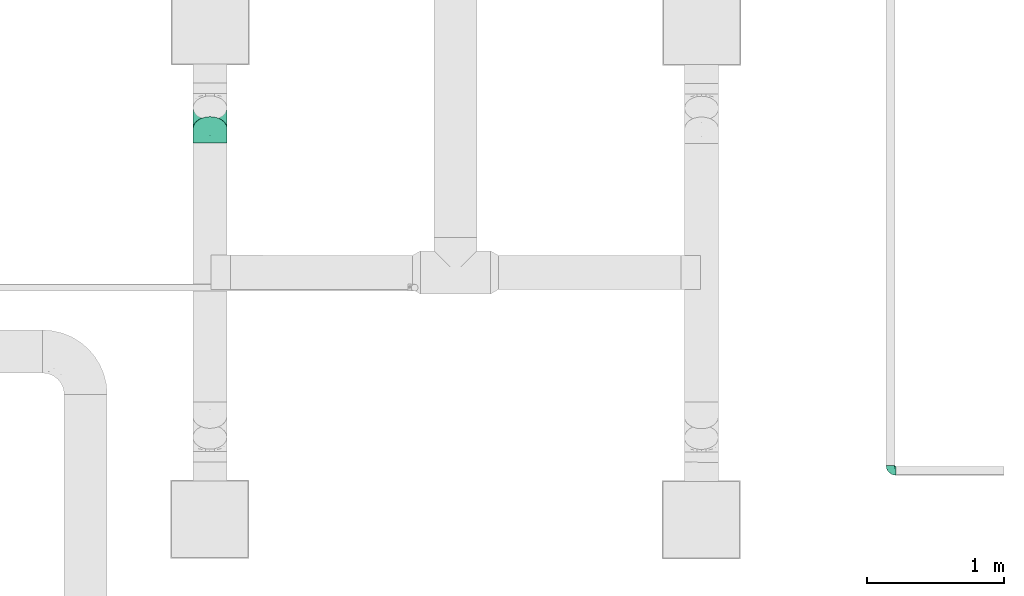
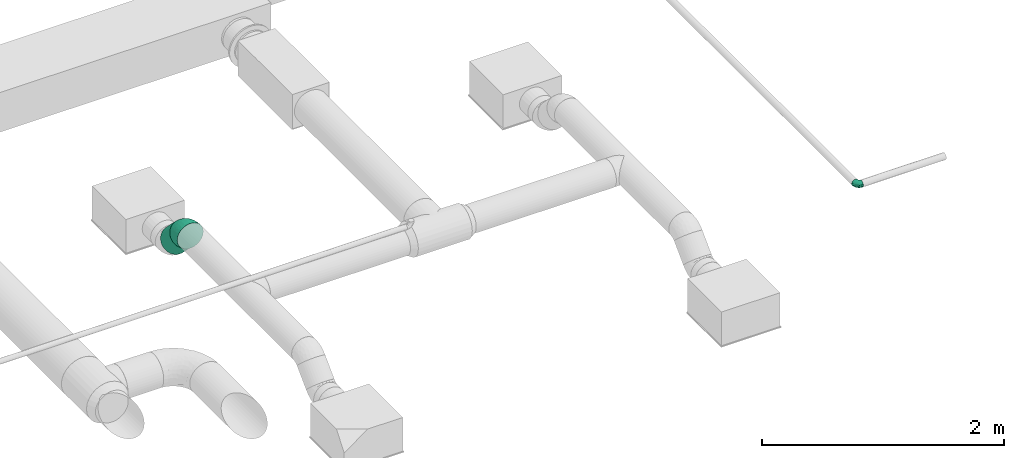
# One storey, part 29 of 63: 2 flow fittings, 1 flow segment.
"""IFC2X3 building model written with IfcOpenShell, lengths in millimetres."""

import ifcopenshell
import ifcopenshell.guid

model = None  # the IFC model being written
_history = None  # IfcOwnerHistory: only IFC2X3 demands one
_inside = {}  # id of a spatial element -> (the spatial element, [elements in it])
_under = {}  # id of a project, library or spatial element -> (it, [spatial elements below it])
_declared = {}  # id of a project -> (the project, [libraries it declares])
_typed = {}  # id of a type object -> (the type object, [elements of that type])
_made_of = {}  # id of a material, layer set ... -> (it, [elements and type objects made of it])


def new_model(schema):
    """Start an empty IFC model of exactly this schema.

    Asked for "IFC4X3", IfcOpenShell would pick the latest addendum, in which some entities
    have other attributes; the version numbers below select the first issue.
    IFC2X3 requires an IfcOwnerHistory on every rooted entity: one is made here for all.
    """
    global model, _history
    if schema == "IFC4X3":
        model = ifcopenshell.file(schema_version=(4, 3, 0, 0))
    else:
        model = ifcopenshell.file(schema=schema)
    _inside.clear()
    _under.clear()
    _declared.clear()
    _typed.clear()
    _made_of.clear()
    _history = None
    if model.schema == "IFC2X3":
        org = make("IfcOrganization", Name="unknown")
        user = make(
            "IfcPersonAndOrganization",
            ThePerson=make("IfcPerson", FamilyName="unknown"),
            TheOrganization=org,
        )
        app = make(
            "IfcApplication",
            ApplicationDeveloper=org,
            Version="unknown",
            ApplicationFullName="unknown",
            ApplicationIdentifier="unknown",
        )
        _history = make(
            "IfcOwnerHistory",
            OwningUser=user,
            OwningApplication=app,
            ChangeAction="ADDED",
            CreationDate=0,
        )
    return model


def make(cls, **values):
    """One entity of the class cls with the attributes given. An attribute that is None is left unset."""
    return model.create_entity(
        cls, **{name: value for name, value in values.items() if value is not None}
    )


def entity(cls, *values):
    """Any entity or typed value of the class cls, its attributes in the order of the schema. None: left unset."""
    e = model.create_entity(cls)
    for i, value in enumerate(values):
        if value is not None:
            e[i] = value
    return e


def rooted(cls, **values):
    """An entity with a GlobalId (a new one), such as an element, a storey or a relation."""
    return make(cls, GlobalId=ifcopenshell.guid.new(), OwnerHistory=_history, **values)


def si_unit(unit_type, name, prefix=None):
    """IfcSIUnit, for example si_unit("LENGTHUNIT", "METRE", prefix="MILLI")."""
    return make("IfcSIUnit", UnitType=unit_type, Prefix=prefix, Name=name)


def converted_unit(unit_type, name, factor, base, dimensions=None, offset=None):
    """IfcConversionBasedUnit, such as the inch: factor (a typed value) times the base unit."""
    return make(
        "IfcConversionBasedUnit"
        if offset is None
        else "IfcConversionBasedUnitWithOffset",
        ConversionOffset=offset,
        Dimensions=None
        if dimensions is None
        else entity("IfcDimensionalExponents", *dimensions),
        UnitType=unit_type,
        Name=name,
        ConversionFactor=make(
            "IfcMeasureWithUnit", ValueComponent=factor, UnitComponent=base
        ),
    )


def derived_unit(unit_type, elements):
    """IfcDerivedUnit: a product of units, each with its exponent."""
    return make(
        "IfcDerivedUnit",
        Elements=[
            make("IfcDerivedUnitElement", Unit=unit, Exponent=power)
            for unit, power in elements
        ],
        UnitType=unit_type,
    )


def assignment(units):
    """IfcUnitAssignment: the units of a project."""
    return None if units is None else make("IfcUnitAssignment", Units=units)


def point(xyz):
    """IfcCartesianPoint."""
    return None if xyz is None else make("IfcCartesianPoint", Coordinates=xyz)


def direction(xyz):
    """IfcDirection."""
    return None if xyz is None else make("IfcDirection", DirectionRatios=xyz)


def frame(location, z_axis=None, x_axis=None):
    """IfcAxis2Placement3D, a coordinate frame: its origin and axes. An axis left out is left unset."""
    return make(
        "IfcAxis2Placement3D",
        Location=point(location),
        Axis=direction(z_axis),
        RefDirection=direction(x_axis),
    )


def frame_2d(location, x_axis=None):
    """IfcAxis2Placement2D, a coordinate frame in the plane: its origin and x axis."""
    return make(
        "IfcAxis2Placement2D", Location=point(location), RefDirection=direction(x_axis)
    )


def origin_with_axes():
    """The frame at (0, 0, 0) with the z axis (0, 0, 1) and the x axis (1, 0, 0) written out."""
    return frame((0.0, 0.0, 0.0), z_axis=(0.0, 0.0, 1.0), x_axis=(1.0, 0.0, 0.0))


def origin_2d_with_axis():
    """The frame at (0, 0) in the plane with the x axis (1, 0) written out."""
    return frame_2d((0.0, 0.0), x_axis=(1.0, 0.0))


def place(relative_to, where):
    """IfcLocalPlacement: puts the frame where relative to a parent placement (None: the world)."""
    return make(
        "IfcLocalPlacement", PlacementRelTo=relative_to, RelativePlacement=where
    )


def context(
    kind, dimensions, precision=None, world=None, true_north=None, identifier=None
):
    """IfcGeometricRepresentationContext, for example the 3D "Model" context."""
    return make(
        "IfcGeometricRepresentationContext",
        ContextIdentifier=identifier,
        ContextType=kind,
        CoordinateSpaceDimension=dimensions,
        Precision=precision,
        WorldCoordinateSystem=world,
        TrueNorth=true_north,
    )


def subcontext(parent, identifier, kind, view, scale=None):
    """IfcGeometricRepresentationSubContext, for example "Body" below "Model"."""
    return make(
        "IfcGeometricRepresentationSubContext",
        ContextIdentifier=identifier,
        ContextType=kind,
        ParentContext=parent,
        TargetScale=scale,
        TargetView=view,
    )


def project(units=None, contexts=None):
    """IfcProject with its units and contexts."""
    return rooted(
        "IfcProject",
        Name="project",
        RepresentationContexts=contexts,
        UnitsInContext=assignment(units),
    )


def spatial(cls, under=None, at=None, **own):
    """A site, building, storey or space (cls), placed at a placement, below another one or the project."""
    s = rooted(cls, ObjectPlacement=at, **own)
    if under is not None:
        _under.setdefault(under.id(), (under, []))[1].append(s)
    return s


def profile(cls, at=None, kind="AREA", **sizes):
    """A parametric profile (cls). Its sizes go by their IFC names, for example OverallWidth=200.0."""
    return make(cls, ProfileType=kind, Position=at, **sizes)


def hollow_circle(**sizes):
    """IfcCircleHollowProfileDef."""
    return profile("IfcCircleHollowProfileDef", **sizes)


def extrude(swept, where, along, depth):
    """IfcExtrudedAreaSolid: the profile swept, set in the frame where, extruded along a direction by depth."""
    return make(
        "IfcExtrudedAreaSolid",
        SweptArea=swept,
        Position=where,
        ExtrudedDirection=direction(along),
        Depth=depth,
    )


def faces_of(points, faces, orient=None, outer=None):
    """IfcFace entities. A face is a list of loops; a loop is a list of indices into points, from 0.

    orient and outer hold one flag for each loop. By default every Orientation is true, the
    first loop of a face is its IfcFaceOuterBound and the others are IfcFaceBound.
    """
    made = []
    for i, loops in enumerate(faces):
        bounds = []
        for j, loop in enumerate(loops):
            is_outer = j == 0 if outer is None else outer[i][j]
            bounds.append(
                make(
                    "IfcFaceOuterBound" if is_outer else "IfcFaceBound",
                    Bound=make("IfcPolyLoop", Polygon=[points[k] for k in loop]),
                    Orientation=True if orient is None else orient[i][j],
                )
            )
        made.append(make("IfcFace", Bounds=bounds))
    return made


def open_shell(faces, orient=None, outer=None):
    """The faces of one IfcOpenShell. surface_model builds it on its shared points."""
    return ("IfcOpenShell", faces, orient, outer)


def surface_model(cls, points, shells):
    """IfcFaceBasedSurfaceModel or IfcShellBasedSurfaceModel (cls): surfaces that need not close."""
    shared = [point(p) for p in points]
    made = [make(c, CfsFaces=faces_of(shared, fs, o, b)) for c, fs, o, b in shells]
    if cls == "IfcFaceBasedSurfaceModel":
        return make(cls, FbsmFaces=made)
    return make(cls, SbsmBoundary=made)


def shape(context_of_items, identifier, shape_type, items):
    """IfcShapeRepresentation: the items that make up one representation, for example the "Body"."""
    return make(
        "IfcShapeRepresentation",
        ContextOfItems=context_of_items,
        RepresentationIdentifier=identifier,
        RepresentationType=shape_type,
        Items=items,
    )


def source(mapping_origin, context_of_items, identifier, shape_type, items):
    """IfcRepresentationMap: a shape defined once, which mapped items show again and again."""
    return make(
        "IfcRepresentationMap",
        MappingOrigin=mapping_origin,
        MappedRepresentation=shape(context_of_items, identifier, shape_type, items),
    )


def transform(
    local_origin,
    x_axis=None,
    y_axis=None,
    z_axis=None,
    scale=None,
    scale2=None,
    scale3=None,
    uniform=True,
):
    """IfcCartesianTransformationOperator3D, or its non-uniform kind. x_axis, y_axis, z_axis: its Axis1, 2, 3."""
    if uniform:
        return make(
            "IfcCartesianTransformationOperator3D",
            Axis1=direction(x_axis),
            Axis2=direction(y_axis),
            LocalOrigin=point(local_origin),
            Scale=scale,
            Axis3=direction(z_axis),
        )
    return make(
        "IfcCartesianTransformationOperator3DnonUniform",
        Axis1=direction(x_axis),
        Axis2=direction(y_axis),
        LocalOrigin=point(local_origin),
        Scale=scale,
        Axis3=direction(z_axis),
        Scale2=scale2,
        Scale3=scale3,
    )


def mapped(mapping_source, mapping_target):
    """IfcMappedItem: shows the shape of a source again, moved by a transform."""
    return make(
        "IfcMappedItem", MappingSource=mapping_source, MappingTarget=mapping_target
    )


def made_of(thing, what):
    """Note that an element or type object is made of a material, layer set ...; save() writes the relation."""
    if what is not None:
        _made_of.setdefault(what.id(), (what, []))[1].append(thing)
    return thing


def type_object(cls, material=None, **own):
    """A type object (cls), such as IfcWallType, which elements share."""
    return made_of(rooted(cls, **own), material)


def element(
    cls,
    number,
    at=None,
    inside=None,
    cuts=None,
    type_object=None,
    material=None,
    context=None,
    identifier="Body",
    shape_type=None,
    held_by="IfcProductDefinitionShape",
    body=None,
    shapes=None,
    **own,
):
    """One element of the class cls, such as IfcWall. Its Tag is "e" and its number.

    at: its placement. inside: the storey or other place that contains it. cuts: it is an
    opening in that element (IfcRelVoidsElement). A single representation is given by context,
    identifier, shape_type and body (its items); several are given by shapes. held_by: the class
    of the entity that holds the representations. save() writes the other relations.
    """
    e = rooted(cls, Tag="e%d" % number, ObjectPlacement=at, **own)
    if body is not None:
        shapes = [shape(context, identifier, shape_type, body)]
    if shapes is not None:
        e.Representation = make(held_by, Representations=shapes)
    if inside is not None:
        _inside.setdefault(inside.id(), (inside, []))[1].append(e)
    if cuts is not None:
        rooted(
            "IfcRelVoidsElement", RelatingBuildingElement=cuts, RelatedOpeningElement=e
        )
    if type_object is not None:
        _typed.setdefault(type_object.id(), (type_object, []))[1].append(e)
    return made_of(e, material)


def aggregate(whole, parts):
    """IfcRelAggregates: a whole, such as a stair, and the parts it consists of."""
    return rooted("IfcRelAggregates", RelatingObject=whole, RelatedObjects=parts)


def save(model, path):
    """Write the relations noted so far, then the file.

    IfcRelAggregates (storeys below a building ...), IfcRelContainedInSpatialStructure (elements
    in a storey), IfcRelDefinesByType, IfcRelAssociatesMaterial and IfcRelDeclares: one each for
    every whole, place, type object, material and project.
    """
    for whole, parts in _under.values():
        aggregate(whole, parts)
    for where, things in _inside.values():
        rooted(
            "IfcRelContainedInSpatialStructure",
            RelatedElements=things,
            RelatingStructure=where,
        )
    for kind, things in _typed.values():
        rooted("IfcRelDefinesByType", RelatedObjects=things, RelatingType=kind)
    for what, things in _made_of.values():
        rooted("IfcRelAssociatesMaterial", RelatedObjects=things, RelatingMaterial=what)
    for by, libraries in _declared.values():
        rooted("IfcRelDeclares", RelatingContext=by, RelatedDefinitions=libraries)
    model.write(path)


model = new_model("IFC2X3")

# Units and contexts
model_context = context("Model", 3, precision=0.01, world=frame((0.0, 4.29681676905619e-09, 0.0)), true_north=direction((4.01073788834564e-13, 1.0)))
plan_context = context("Plan", 3, precision=0.01, world=frame((0.0, 4.29681676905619e-09, 0.0)), true_north=direction((4.01073788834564e-13, 1.0)))
body_context = subcontext(model_context, "Body", "Model", "MODEL_VIEW")
ifc_project = project(units=[converted_unit("PLANEANGLEUNIT", "DEGREE", entity("IfcPositiveLengthMeasure", 0.0174532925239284), si_unit("PLANEANGLEUNIT", "RADIAN"), dimensions=[0, 0, 0, 0, 0, 0, 0]), si_unit("AREAUNIT", "SQUARE_METRE"), si_unit("LENGTHUNIT", "METRE", prefix="MILLI"), si_unit("MASSUNIT", "GRAM", prefix="KILO"), si_unit("POWERUNIT", "WATT"), si_unit("PRESSUREUNIT", "PASCAL"), si_unit("FORCEUNIT", "NEWTON", prefix="KILO"), si_unit("ELECTRICVOLTAGEUNIT", "VOLT"), si_unit("ELECTRICCURRENTUNIT", "AMPERE"), si_unit("THERMODYNAMICTEMPERATUREUNIT", "DEGREE_CELSIUS"), si_unit("TIMEUNIT", "SECOND"), si_unit("VOLUMEUNIT", "CUBIC_METRE"), derived_unit("LINEARVELOCITYUNIT", [(si_unit("LENGTHUNIT", "METRE"), 1), (si_unit("TIMEUNIT", "SECOND"), -1)]), derived_unit("VOLUMETRICFLOWRATEUNIT", [(si_unit("VOLUMEUNIT", "CUBIC_METRE"), 1), (si_unit("TIMEUNIT", "SECOND"), -1)]), derived_unit("THERMALTRANSMITTANCEUNIT", [(si_unit("POWERUNIT", "WATT"), 1), (si_unit("THERMODYNAMICTEMPERATUREUNIT", "KELVIN"), -1), (si_unit("AREAUNIT", "SQUARE_METRE"), -1)]), derived_unit("SOUNDPRESSUREUNIT", [(si_unit("PRESSUREUNIT", "PASCAL"), 1)])], contexts=[model_context, plan_context])

# Site, building, storey
site_placement = place(None, frame((0.0, -4.29681676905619e-09, 0.0), z_axis=(0.0, 0.0, 1.0), x_axis=(1.0, 0.0, 0.0)))
site = spatial("IfcSite", under=ifc_project, at=site_placement, CompositionType="ELEMENT")
building_placement = place(site_placement, frame((0.0, 4.29681676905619e-09, 0.0), z_axis=(0.0, 0.0, 1.0), x_axis=(1.0, 0.0, 0.0)))
building = spatial("IfcBuilding", under=site, at=building_placement, Name="mc-building", CompositionType="ELEMENT")
storey_placement = place(building_placement, frame((0.0, 0.0, 210900.0), z_axis=(0.0, 0.0, 1.0), x_axis=(1.0, 0.0, 0.0)))
storey = spatial("IfcBuildingStorey", under=building, at=storey_placement, Name="Nivå F", CompositionType="ELEMENT", Elevation=210900.0)

# Flow fittings
duct_fitting_type = type_object("IfcDuctFittingType", Name="magicirc_elbow_short_001", PredefinedType="BEND")
shared_shape_1 = source(origin_with_axes(), body_context, "Body", "SurfaceModel", [
    surface_model("IfcShellBasedSurfaceModel", [(-62.13204, 0.0, -125.0), (-62.13204, -32.35238, -120.74073), (-62.13204, 32.35238, -120.74073), (-62.13204, 62.5, -108.25318), (-62.13204, 88.38835, -88.38835), (-62.13204, 108.25318, -62.5), (-62.13204, 120.74073, -32.35238), (-62.13204, -62.5, -108.25318), (-62.13204, -88.38835, -88.38835), (-62.13204, -125.0, 0.0), (-62.13204, -108.25318, -62.5), (-62.13204, -120.74073, -32.35238), (-62.13204, 125.0, 0.0), (-62.13204, -120.74073, 32.35238), (-62.13204, 120.74073, 32.35238), (-62.13204, 108.25318, 62.5), (-62.13204, 32.35238, 120.74073), (-62.13204, 62.5, 108.25318), (-62.13204, 88.38835, 88.38835), (-62.13204, -88.38835, 88.38835), (-62.13204, -108.25318, 62.5), (-62.13204, -32.35238, 120.74073), (-62.13204, 0.0, 125.0), (-62.13204, -62.5, 108.25318), (-32.61257, 120.48054, -62.5), (-41.44261, 129.31057, -32.35238), (-44.45436, 132.32233, 0.0), (-41.44261, 129.31057, 32.35238), (-32.61257, 120.48054, 62.5), (-39.32094, -100.77129, 72.52866), (-25.3983, -115.58366, 40.92131), (-9.38975, -99.61313, 67.6303), (-40.71594, 99.20513, 81.38635), (-18.56602, 106.43398, 88.38835), (6.93461, -16.74165, 121.22697), (-29.92798, -19.88945, 122.8817), (-17.69423, -50.99343, 111.83063), (-28.63512, 12.8945, 124.68547), (-43.55871, 45.16564, 117.17454), (-19.1971, 46.34588, 119.14586), (20.11216, -107.05726, 35.36285), (37.22525, -89.79474, 60.1728), (-42.64489, 65.81413, 107.6176), (18.18237, -43.89615, 109.72868), (-48.14682, 116.23669, 52.46898), (11.13029, 29.36587, 124.68547), (-8.4822, -119.71595, 0.0), (17.31186, -111.89141, 0.0), (-27.44697, 77.92943, 103.54984), (-1.13628, 62.73759, 117.17454), (-0.26019, 88.12816, 108.25318), (29.58221, -71.41779, 87.09722), (2.27359, -83.55864, 84.32151), (46.20365, -49.09439, 98.73245), (43.10591, -104.06687, 0.0), (-28.63512, 12.89449, -124.68547), (-29.92797, -19.88945, -122.8817), (11.13029, 29.36586, -124.68547), (-19.1971, 46.34588, -119.14586), (-43.55871, 45.16564, -117.17454), (-35.69649, 74.51237, -103.54983), (-25.3983, -115.58366, -40.92131), (-48.14682, 116.23669, -52.46898), (-39.32094, -100.77129, -72.52866), (-16.38313, 76.69211, -107.6176), (-18.56602, 106.43398, -88.38835), (-0.26019, 88.12816, -108.25318), (-17.69423, -50.99343, -111.83063), (6.93461, -16.74165, -121.22697), (-1.13628, 62.73759, -117.17454), (48.5695, -23.54609, -111.83063), (35.22623, 7.0983, -122.8817), (-9.38975, -99.61313, -67.63031), (2.04406, -67.38589, -98.73245), (29.58221, -71.41778, -87.09723), (43.93399, 43.934, -125.0), (106.43399, -18.56599, 88.38835), (132.32235, -44.45434, 0.0), (21.05739, 66.81058, -120.74073), (88.12817, -0.26017, 108.25318), (66.81057, 21.05741, -120.74073), (106.43399, -18.56599, -88.38835), (88.12817, -0.26017, -108.25318), (129.31058, -41.44258, -32.35238), (120.48055, -32.61255, -62.5), (21.05739, 66.81058, 120.74073), (43.93399, 43.934, 125.0), (129.31058, -41.44258, 32.35238), (120.48055, -32.61255, 62.5), (66.81057, 21.05741, 120.74073), (-31.08246, -121.94188, 0.0), (35.22622, 7.09831, 122.8817), (77.07669, -63.79755, 67.6303), (61.9235, -89.5906, 35.66991), (-52.56496, 126.90301, 0.0), (99.68931, -63.77067, 40.92131), (48.5695, -23.54609, 111.83062), (99.06018, -43.45194, 72.52866), (74.0201, -37.27574, 94.74512), (108.20455, -64.2473, 0.0), (90.64979, -78.65413, 0.0), (66.87785, -91.36049, 0.0), (-3.43913, -67.17105, 100.02812), (19.56361, -107.13664, -35.66991), (-41.35812, 98.93914, -81.38635), (-25.98217, -78.69805, -94.74512), (61.47949, -89.92235, -35.36285), (18.18239, -43.89616, -109.72867), (57.47721, -60.69254, -84.32152), (74.02009, -37.27574, -94.74513), (77.07669, -63.79755, -67.6303), (37.17223, -89.81669, -60.17279), (99.68931, -63.77066, -40.92131), (99.06018, -43.45194, -72.52866), (49.92893, -45.06527, -100.02812), (-25.98217, -78.69805, 94.74512)], [open_shell([[[0, 1, 2]], [[3, 2, 4]], [[1, 5, 2]], [[4, 2, 5]], [[5, 1, 6]], [[7, 8, 1]], [[9, 1, 8]], [[10, 11, 8]], [[9, 8, 11]], [[9, 6, 1]], [[9, 12, 6]], [[12, 13, 14]], [[15, 14, 16]], [[16, 17, 18]], [[15, 16, 18]], [[16, 14, 19]], [[20, 19, 13]], [[19, 14, 13]], [[21, 22, 23]], [[19, 23, 22]], [[19, 22, 16]], [[9, 13, 12]], [[24, 25, 26]], [[26, 27, 28]], [[29, 30, 31]], [[32, 33, 28]], [[30, 20, 13]], [[34, 35, 36]], [[21, 35, 22]], [[21, 23, 36]], [[16, 22, 37]], [[38, 37, 39]], [[31, 40, 41]], [[42, 17, 38]], [[38, 17, 16]], [[43, 34, 36]], [[35, 37, 22]], [[14, 15, 44]], [[42, 32, 18]], [[29, 19, 20]], [[40, 31, 30]], [[37, 45, 39]], [[45, 37, 34]], [[40, 46, 47]], [[42, 18, 17]], [[33, 32, 48]], [[27, 44, 28]], [[48, 39, 49]], [[33, 48, 50]], [[44, 32, 28]], [[18, 32, 15]], [[36, 35, 21]], [[37, 35, 34]], [[41, 51, 52]], [[14, 44, 27]], [[32, 44, 15]], [[37, 38, 16]], [[42, 39, 48]], [[39, 42, 38]], [[42, 48, 32]], [[48, 49, 50]], [[45, 49, 39]], [[30, 29, 20]], [[53, 43, 51]], [[46, 40, 30]], [[47, 54, 40]], [[41, 52, 31]], [[0, 2, 55]], [[56, 1, 0]], [[57, 55, 58]], [[59, 60, 58]], [[10, 61, 11]], [[3, 4, 60]], [[62, 6, 25]], [[61, 10, 63]], [[64, 65, 66]], [[1, 56, 67]], [[8, 63, 10]], [[7, 1, 67]], [[56, 55, 68]], [[25, 24, 62]], [[69, 64, 66]], [[2, 3, 59]], [[59, 55, 2]], [[69, 57, 58]], [[70, 68, 71]], [[55, 57, 68]], [[55, 56, 0]], [[67, 56, 68]], [[57, 71, 68]], [[6, 62, 5]], [[60, 59, 3]], [[55, 59, 58]], [[64, 58, 60]], [[58, 64, 69]], [[61, 63, 72]], [[72, 73, 74]], [[75, 76, 77]], [[66, 26, 78]], [[78, 79, 75]], [[24, 66, 65]], [[66, 24, 26]], [[80, 81, 82]], [[80, 75, 81]], [[81, 83, 84]], [[83, 81, 77]], [[75, 77, 81]], [[26, 28, 50]], [[50, 85, 26]], [[50, 28, 33]], [[26, 85, 86]], [[87, 76, 88]], [[77, 76, 87]], [[79, 86, 89]], [[76, 75, 79]], [[86, 79, 26]], [[78, 26, 79]], [[90, 46, 30]], [[91, 45, 34]], [[92, 41, 93]], [[94, 14, 27]], [[40, 93, 41]], [[94, 12, 14]], [[92, 93, 95]], [[40, 54, 93]], [[96, 89, 91]], [[97, 88, 76]], [[89, 96, 79]], [[88, 97, 95]], [[88, 95, 87]], [[96, 98, 79]], [[53, 92, 98]], [[95, 99, 87]], [[85, 50, 49]], [[41, 92, 51]], [[30, 13, 90]], [[26, 94, 27]], [[93, 100, 95]], [[93, 54, 101]], [[86, 91, 89]], [[86, 85, 45]], [[45, 85, 49]], [[34, 43, 96]], [[79, 98, 76]], [[93, 101, 100]], [[53, 98, 96]], [[97, 98, 92]], [[45, 91, 86]], [[96, 91, 34]], [[13, 9, 90]], [[99, 95, 100]], [[99, 77, 87]], [[98, 97, 76]], [[95, 97, 92]], [[51, 43, 102]], [[51, 102, 52]], [[43, 36, 102]], [[43, 53, 96]], [[92, 53, 51]], [[103, 46, 61]], [[78, 75, 57]], [[4, 104, 60]], [[73, 72, 105]], [[80, 82, 70]], [[61, 90, 11]], [[83, 77, 99]], [[105, 7, 67]], [[106, 100, 101]], [[103, 54, 47]], [[72, 103, 61]], [[105, 8, 7]], [[68, 107, 67]], [[6, 12, 94]], [[108, 109, 110]], [[94, 26, 25]], [[111, 72, 74]], [[112, 83, 99]], [[82, 81, 109]], [[112, 84, 83]], [[64, 104, 65]], [[4, 5, 104]], [[113, 81, 84]], [[109, 108, 114]], [[70, 82, 109]], [[66, 78, 69]], [[75, 80, 71]], [[110, 113, 112]], [[107, 68, 70]], [[112, 99, 100]], [[106, 103, 111]], [[106, 110, 112]], [[110, 106, 111]], [[71, 57, 75]], [[103, 47, 46]], [[94, 25, 6]], [[113, 109, 81]], [[106, 54, 103]], [[73, 105, 67]], [[63, 105, 72]], [[62, 104, 5]], [[65, 104, 24]], [[70, 71, 80]], [[90, 61, 46]], [[90, 9, 11]], [[72, 111, 103]], [[111, 74, 108]], [[104, 62, 24]], [[57, 69, 78]], [[64, 60, 104]], [[112, 113, 84]], [[109, 113, 110]], [[105, 63, 8]], [[114, 70, 109]], [[73, 107, 74]], [[100, 106, 112]], [[101, 54, 106]], [[111, 108, 110]], [[74, 107, 114]], [[74, 114, 108]], [[107, 70, 114]], [[107, 73, 67]], [[23, 115, 36]], [[52, 102, 115]], [[23, 19, 115]], [[29, 115, 19]], [[52, 115, 31]], [[115, 29, 31]], [[102, 36, 115]]])]),
])
flow_fitting_1_placement = place(storey_placement, frame((530505.40078, 453602.55454, 4200.0), z_axis=(0.999999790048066, -0.000647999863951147, -3.79470760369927e-19), x_axis=(-0.000458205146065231, -0.707106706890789, 0.707106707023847)))
element("IfcFlowFitting", 1, at=flow_fitting_1_placement, inside=storey, type_object=duct_fitting_type, Name="magicirc_elbow_short_001", context=body_context, shape_type="MappedRepresentation", body=[
    mapped(shared_shape_1, transform((0.0, 0.0, 0.0), scale=1.0)),
])
shared_shape_2 = source(origin_with_axes(), body_context, "Body", "SurfaceModel", [
    surface_model("IfcShellBasedSurfaceModel", [(-39.0, 16.25, -28.14582), (-39.0, 8.41162, -31.39259), (-39.0, 0.0, -32.5), (-39.0, 28.14582, -16.25), (-39.0, 31.39259, -8.41162), (-39.0, 22.98097, -22.98097), (-39.0, -31.39259, -8.41162), (-39.0, -22.98097, -22.98097), (-39.0, -16.25, -28.14582), (-39.0, -8.41162, -31.39259), (-39.0, -28.14582, -16.25), (-39.0, -32.5, 0.0), (-39.0, -31.39259, 8.41162), (-39.0, 16.25, 28.14582), (-39.0, 31.39259, 8.41162), (-39.0, 28.14582, 16.25), (-39.0, 22.98097, 22.98097), (-39.0, -22.98097, 22.98097), (-39.0, 8.41162, 31.39259), (-39.0, -28.14582, 16.25), (-39.0, -8.41162, 31.39259), (-39.0, 0.0, 32.5), (-39.0, -16.25, 28.14582), (-39.0, 32.5, 0.0), (0.0, 39.0, -32.5), (-8.41162, 39.0, -31.39259), (-16.25, 39.0, -28.14582), (-28.14582, 39.0, -16.25), (-31.39259, 39.0, -8.41162), (-22.98097, 39.0, -22.98097), (31.39259, 39.0, -8.41162), (16.25, 39.0, -28.14582), (22.98097, 39.0, -22.98097), (8.41162, 39.0, -31.39259), (28.14582, 39.0, -16.25), (31.39259, 39.0, 8.41162), (32.5, 39.0, 0.0), (-16.25, 39.0, 28.14582), (-31.39259, 39.0, 8.41162), (-22.98097, 39.0, 22.98097), (-28.14582, 39.0, 16.25), (22.98097, 39.0, 22.98097), (-8.41162, 39.0, 31.39259), (28.14582, 39.0, 16.25), (16.25, 39.0, 28.14582), (0.0, 39.0, 32.5), (8.41162, 39.0, 31.39259), (-32.5, 39.0, 0.0), (11.76834, 12.131, 26.76213), (17.76928, 18.80209, 24.58577), (14.03034, 25.58403, 28.4557), (-27.39207, -30.14132, 9.40651), (-16.92918, -27.775, 8.64922), (-22.39985, -26.18081, 16.04807), (-32.4644, 9.10615, 31.39569), (-30.51954, 18.82994, 27.62549), (15.43295, -5.75907, 0.0), (13.75377, -8.57062, 5.47997), (11.55813, -11.55813, 0.0), (-12.131, -11.76835, 26.76213), (-19.40187, -5.53363, 31.03267), (-25.58403, -14.03034, 28.4557), (-27.27224, -21.02467, 23.77394), (-18.80209, -17.76928, 24.58577), (-31.88666, -26.50709, 18.24996), (-30.16778, -5.83561, 31.80246), (-11.04568, 28.02334, 31.23824), (-2.56194, 28.69837, 32.48022), (21.02468, 27.27224, 23.77394), (22.33368, 18.79773, 20.05395), (26.18081, 22.39985, 16.04807), (7.96389, -4.30748, 20.90561), (-1.78002, -11.49647, 22.20526), (-0.5074, -15.22672, 17.3209), (-26.22831, 11.18008, 31.39878), (-28.29822, 2.55195, 32.4842), (-16.96398, 6.14377, 32.49515), (-39.0, 12.33081, 29.76921), (-31.08223, -30.92506, 0.0), (-18.81028, 30.83549, 27.56184), (-27.05605, 27.05605, 23.82131), (-21.31898, 21.55691, 29.25169), (-33.74024, 33.74024, 7.75348), (-34.4038, 34.4038, 0.0), (-6.66284, 20.84558, 32.44351), (-33.48254, 25.2926, 21.66693), (-34.20254, 28.80556, 16.94471), (30.14132, 27.39207, 9.40651), (30.92506, 31.08223, 0.0), (-9.81809, -21.93366, 15.50861), (-7.84714, -23.61287, 9.96443), (-2.62833, -19.50659, 12.75931), (5.83561, 30.16778, 31.80246), (-5.03489, 10.31945, 32.03901), (-10.41291, 0.51353, 31.24567), (29.35011, 23.16445, 0.0), (27.67026, 16.32938, 8.3112), (27.05739, 11.63813, 0.0), (-23.16445, -29.35011, 0.0), (26.50709, 31.88666, 18.24996), (-31.07233, 32.06878, 15.67587), (5.53363, 19.40187, 31.03267), (-25.2926, 33.48254, 21.66693), (-5.83907, -23.18257, 0.0), (0.75535, -19.50821, 7.00173), (-13.70334, 16.25871, 32.11557), (18.74181, 10.66169, 20.37406), (-19.15604, 11.81156, 32.05829), (-11.63813, -27.05739, 0.0), (-0.39882, 20.84724, 32.29366), (-17.59128, -22.63305, 19.1684), (-0.79288, 0.79288, 28.8142), (2.58034, 9.78762, 30.27585), (16.69212, -2.73243, 10.96853), (12.75699, -3.83851, 16.18066), (10.93722, -9.3747, 11.15462), (18.97429, 4.16902, 15.37545), (23.93292, 6.30619, 6.12024), (6.45891, 4.86455, 27.16034), (14.08886, 2.56989, 20.29265), (3.3809, -2.63971, 25.28882), (-7.69024, -5.28324, 28.70855), (-10.66169, -18.74181, 20.37407), (23.52715, 11.19447, 13.7866), (19.30776, 0.04, 0.0), (23.18257, 5.83907, 0.0), (4.20237, -14.97813, 12.16315), (8.00223, -14.1489, 5.94951), (5.75907, -15.43295, 0.0), (-0.04, -19.30776, 0.0), (-9.10615, 32.4644, -31.39569), (-11.18008, 26.2283, -31.39878), (-18.82994, 30.51954, -27.62549), (-31.88666, -26.50709, -18.24996), (-28.02334, 11.04568, -31.23824), (-28.69837, 2.56194, -32.48022), (-32.06878, 31.07233, -15.67587), (-27.05605, 27.05605, -23.82131), (-33.48254, 25.2926, -21.66693), (19.50821, -0.75535, -7.00173), (23.61287, 7.84714, -9.96443), (-16.32938, -27.67026, -8.3112), (-12.131, -11.76835, -26.76213), (-10.66169, -18.74181, -20.37407), (-18.80209, -17.76928, -24.58577), (-10.31945, 5.03489, -32.03901), (-6.14378, 16.96398, -32.49515), (-0.51353, 10.4129, -31.24567), (-16.25871, 13.70333, -32.11557), (-27.39207, -30.14132, -9.40651), (-2.55195, 28.29821, -32.4842), (-27.27224, -21.02467, -23.77394), (-18.79773, -22.33368, -20.05395), (-22.39985, -26.18081, -16.04807), (-25.58403, -14.03034, -28.4557), (-30.83549, 18.81028, -27.56184), (-21.55691, 21.31898, -29.25169), (-30.16778, -5.83561, -31.80246), (21.93365, 9.81809, -15.50861), (27.775, 16.92918, -8.64922), (30.14132, 27.39207, -9.40651), (-33.74024, 33.74024, -7.75348), (-28.80556, 34.20254, -16.94471), (-19.40187, -5.53363, -31.03267), (-25.2926, 33.48254, -21.66694), (4.30748, -7.96389, -20.90561), (11.49647, 1.78002, -22.20526), (15.22671, 0.5074, -17.3209), (-12.33081, 39.0, -29.76921), (14.03034, 25.58403, -28.4557), (5.53363, 19.40187, -31.03267), (5.83561, 30.16778, -31.80246), (21.02467, 27.27224, -23.77394), (26.50709, 31.88666, -18.24996), (11.76834, 12.131, -26.76213), (19.50659, 2.62832, -12.75931), (26.18081, 22.39985, -16.04807), (-20.84558, 6.66283, -32.44351), (17.76928, 18.80209, -24.58577), (8.57062, -13.75377, -5.47997), (-11.81157, 19.15604, -32.05829), (-20.84724, 0.39882, -32.29366), (22.63305, 17.59128, -19.1684), (-0.79288, 0.79288, -28.8142), (-9.78762, -2.58035, -30.27585), (2.73243, -16.69212, -10.96853), (3.83851, -12.757, -16.18066), (9.3747, -10.93722, -11.15462), (-4.16902, -18.97429, -15.37545), (-6.30619, -23.93292, -6.12024), (-4.86455, -6.45891, -27.16034), (-2.56989, -14.08887, -20.29265), (2.63971, -3.3809, -25.28882), (5.28323, 7.69024, -28.70855), (18.74181, 10.66169, -20.37407), (-11.19448, -23.52715, -13.78661), (14.97813, -4.20237, -12.16315), (14.1489, -8.00223, -5.94952)], [open_shell([[[0, 1, 2]], [[3, 0, 2]], [[2, 4, 3]], [[5, 0, 3]], [[6, 4, 2]], [[7, 6, 8]], [[2, 9, 8]], [[10, 6, 7]], [[6, 2, 8]], [[6, 11, 12]], [[13, 4, 6]], [[13, 14, 4]], [[15, 14, 16]], [[13, 6, 17]], [[16, 14, 13]], [[13, 17, 18]], [[19, 17, 12]], [[12, 17, 6]], [[20, 21, 22]], [[17, 22, 21]], [[17, 21, 18]], [[23, 4, 14]], [[24, 25, 26]], [[24, 26, 27]], [[27, 28, 24]], [[27, 26, 29]], [[24, 28, 30]], [[31, 30, 32]], [[31, 33, 24]], [[32, 30, 34]], [[24, 30, 31]], [[30, 35, 36]], [[30, 28, 37]], [[28, 38, 37]], [[39, 38, 40]], [[41, 30, 37]], [[37, 38, 39]], [[42, 41, 37]], [[35, 41, 43]], [[30, 41, 35]], [[44, 45, 46]], [[45, 44, 41]], [[42, 45, 41]], [[38, 28, 47]], [[48, 49, 50]], [[51, 52, 53]], [[54, 55, 13]], [[56, 57, 58]], [[59, 60, 61]], [[61, 62, 63]], [[64, 17, 19]], [[62, 61, 22]], [[65, 21, 20]], [[42, 66, 67]], [[68, 69, 70]], [[61, 60, 65]], [[71, 72, 73]], [[74, 75, 76]], [[20, 22, 61]], [[13, 55, 16]], [[13, 77, 54]], [[51, 12, 78]], [[79, 80, 81]], [[23, 82, 83]], [[84, 67, 66]], [[23, 14, 82]], [[85, 86, 15]], [[87, 88, 35]], [[15, 16, 85]], [[37, 79, 66]], [[89, 90, 91]], [[22, 17, 62]], [[44, 68, 41]], [[18, 21, 75]], [[50, 46, 92]], [[44, 46, 50]], [[93, 76, 94]], [[95, 87, 96]], [[97, 95, 96]], [[50, 68, 44]], [[77, 18, 54]], [[35, 43, 87]], [[98, 51, 78]], [[41, 99, 43]], [[37, 39, 79]], [[38, 100, 40]], [[48, 50, 101]], [[100, 80, 102]], [[51, 19, 12]], [[83, 82, 47]], [[103, 104, 90]], [[37, 66, 42]], [[66, 79, 81]], [[105, 76, 93]], [[48, 106, 49]], [[39, 40, 102]], [[42, 67, 45]], [[89, 52, 90]], [[82, 100, 38]], [[92, 46, 45]], [[86, 14, 15]], [[61, 63, 59]], [[65, 75, 21]], [[107, 76, 105]], [[74, 107, 81]], [[85, 55, 80]], [[52, 98, 108]], [[64, 51, 53]], [[99, 87, 43]], [[87, 70, 96]], [[102, 79, 39]], [[80, 55, 81]], [[84, 66, 105]], [[67, 109, 92]], [[49, 68, 50]], [[99, 68, 70]], [[64, 62, 17]], [[110, 53, 89]], [[75, 60, 76]], [[94, 76, 60]], [[111, 112, 93]], [[84, 109, 67]], [[113, 114, 115]], [[57, 113, 115]], [[116, 114, 113]], [[80, 86, 85]], [[90, 104, 91]], [[97, 96, 117]], [[118, 119, 48]], [[116, 119, 114]], [[72, 120, 121]], [[112, 48, 101]], [[48, 112, 118]], [[72, 59, 122]], [[94, 121, 111]], [[89, 73, 122]], [[120, 71, 118]], [[74, 81, 55]], [[66, 81, 105]], [[70, 69, 123]], [[123, 117, 96]], [[96, 70, 123]], [[106, 116, 123]], [[117, 113, 124]], [[117, 123, 116]], [[117, 124, 125]], [[67, 92, 45]], [[50, 92, 101]], [[61, 65, 20]], [[75, 65, 60]], [[100, 102, 40]], [[79, 102, 80]], [[55, 85, 16]], [[86, 80, 100]], [[98, 52, 51]], [[105, 93, 84]], [[93, 112, 109]], [[93, 109, 84]], [[92, 109, 101]], [[119, 116, 106]], [[117, 116, 113]], [[48, 119, 106]], [[119, 71, 114]], [[71, 126, 114]], [[115, 114, 126]], [[127, 115, 126]], [[58, 57, 127]], [[104, 127, 126]], [[104, 128, 127]], [[91, 104, 126]], [[90, 108, 103]], [[57, 56, 124]], [[113, 57, 124]], [[127, 57, 115]], [[73, 91, 126]], [[91, 73, 89]], [[71, 73, 126]], [[122, 73, 72]], [[110, 89, 122]], [[52, 89, 53]], [[63, 110, 122]], [[62, 53, 110]], [[128, 104, 129]], [[128, 58, 127]], [[86, 100, 82]], [[82, 14, 86]], [[47, 82, 38]], [[51, 64, 19]], [[62, 64, 53]], [[68, 99, 41]], [[87, 99, 70]], [[74, 55, 54]], [[18, 75, 54]], [[75, 74, 54]], [[12, 11, 78]], [[88, 87, 95]], [[88, 36, 35]], [[69, 49, 106]], [[49, 69, 68]], [[123, 69, 106]], [[110, 63, 62]], [[59, 63, 122]], [[81, 107, 105]], [[74, 76, 107]], [[121, 60, 59]], [[93, 94, 111]], [[60, 121, 94]], [[72, 121, 59]], [[112, 111, 118]], [[109, 112, 101]], [[120, 118, 111]], [[119, 118, 71]], [[121, 120, 111]], [[72, 71, 120]], [[108, 90, 52]], [[129, 104, 103]], [[97, 117, 125]], [[130, 131, 132]], [[7, 133, 10]], [[0, 134, 1]], [[2, 1, 135]], [[136, 137, 138]], [[125, 139, 140]], [[3, 138, 5]], [[108, 98, 141]], [[3, 4, 136]], [[142, 143, 144]], [[145, 146, 147]], [[148, 146, 145]], [[98, 149, 141]], [[25, 24, 150]], [[6, 10, 149]], [[151, 152, 153]], [[151, 8, 154]], [[149, 78, 6]], [[9, 154, 8]], [[134, 155, 156]], [[155, 137, 156]], [[8, 151, 7]], [[9, 2, 157]], [[154, 9, 157]], [[158, 159, 140]], [[95, 160, 88]], [[23, 83, 161]], [[162, 28, 27]], [[47, 28, 161]], [[142, 154, 163]], [[160, 30, 88]], [[162, 27, 164]], [[29, 26, 132]], [[165, 166, 167]], [[26, 168, 130]], [[169, 170, 171]], [[155, 134, 0]], [[27, 29, 164]], [[33, 31, 169]], [[131, 150, 146]], [[31, 172, 169]], [[173, 32, 34]], [[170, 169, 174]], [[158, 140, 175]], [[1, 134, 135]], [[24, 33, 171]], [[0, 5, 155]], [[160, 34, 30]], [[160, 159, 176]], [[177, 135, 134]], [[30, 36, 88]], [[169, 172, 178]], [[130, 132, 26]], [[128, 179, 58]], [[169, 178, 174]], [[161, 4, 23]], [[161, 136, 4]], [[31, 32, 172]], [[171, 150, 24]], [[180, 146, 148]], [[131, 180, 156]], [[164, 132, 137]], [[133, 149, 10]], [[149, 153, 141]], [[159, 95, 97]], [[173, 160, 176]], [[138, 155, 5]], [[137, 132, 156]], [[177, 134, 148]], [[135, 181, 157]], [[144, 151, 154]], [[133, 151, 153]], [[173, 172, 32]], [[182, 176, 158]], [[150, 170, 146]], [[147, 146, 170]], [[183, 184, 145]], [[177, 181, 135]], [[185, 186, 187]], [[179, 185, 187]], [[188, 186, 185]], [[137, 162, 164]], [[140, 139, 175]], [[108, 141, 189]], [[190, 191, 142]], [[188, 191, 186]], [[166, 192, 193]], [[184, 142, 163]], [[142, 184, 190]], [[166, 174, 194]], [[147, 193, 183]], [[158, 167, 194]], [[192, 165, 190]], [[131, 156, 132]], [[134, 156, 148]], [[153, 152, 195]], [[195, 189, 141]], [[141, 153, 195]], [[143, 188, 195]], [[189, 185, 129]], [[189, 195, 188]], [[189, 129, 103]], [[135, 157, 2]], [[154, 157, 163]], [[169, 171, 33]], [[150, 171, 170]], [[136, 138, 3]], [[155, 138, 137]], [[132, 164, 29]], [[162, 137, 136]], [[95, 159, 160]], [[148, 145, 177]], [[145, 184, 181]], [[145, 181, 177]], [[157, 181, 163]], [[191, 188, 143]], [[189, 188, 185]], [[142, 191, 143]], [[191, 165, 186]], [[165, 196, 186]], [[187, 186, 196]], [[197, 187, 196]], [[58, 179, 197]], [[139, 197, 196]], [[139, 56, 197]], [[175, 139, 196]], [[140, 97, 125]], [[179, 128, 129]], [[185, 179, 129]], [[197, 179, 187]], [[167, 175, 196]], [[175, 167, 158]], [[165, 167, 196]], [[194, 167, 166]], [[182, 158, 194]], [[159, 158, 176]], [[178, 182, 194]], [[172, 176, 182]], [[56, 139, 124]], [[56, 58, 197]], [[162, 136, 161]], [[47, 161, 83]], [[161, 28, 162]], [[160, 173, 34]], [[172, 173, 176]], [[151, 133, 7]], [[149, 133, 153]], [[131, 130, 150]], [[25, 150, 130]], [[168, 25, 130]], [[78, 149, 98]], [[78, 11, 6]], [[142, 144, 154]], [[152, 144, 143]], [[144, 152, 151]], [[195, 152, 143]], [[182, 178, 172]], [[174, 178, 194]], [[156, 180, 148]], [[131, 146, 180]], [[193, 170, 174]], [[145, 147, 183]], [[170, 193, 147]], [[166, 193, 174]], [[184, 183, 190]], [[181, 184, 163]], [[192, 190, 183]], [[191, 190, 165]], [[193, 192, 183]], [[166, 165, 192]], [[97, 140, 159]], [[124, 139, 125]], [[108, 189, 103]]])]),
])
flow_fitting_2_placement = place(storey_placement, frame((535489.30082, 451140.41456, 4425.0), z_axis=(0.0, 0.0, 1.0), x_axis=(0.0, -1.0, 0.0)))
element("IfcFlowFitting", 2, at=flow_fitting_2_placement, inside=storey, type_object=duct_fitting_type, Name="magicirc_elbow_short_001", context=body_context, shape_type="MappedRepresentation", body=[
    mapped(shared_shape_2, transform((0.0, 0.0, 0.0), scale=1.0)),
])

# Flow segment
duct_segment_type = type_object("IfcDuctSegmentType", Name="KK002T - Spiro kanaler, Forsinket stål, korte bend", PredefinedType="RIGIDSEGMENT")
shared_shape_3 = source(origin_with_axes(), body_context, "Body", "SweptSolid", [
    extrude(hollow_circle(Radius=125.0, WallThickness=2.0, at=origin_2d_with_axis()), frame((0.0, 0.0, 0.0), z_axis=(1.0, 0.0, 0.0), x_axis=(0.0, 1.0, 0.0)), (0.0, 0.0, 1.0), 215.1),
])
flow_segment_placement = place(storey_placement, frame((530505.52777, 453798.60781, 4003.94662999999), z_axis=(0.00045799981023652, 0.707106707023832, 0.707106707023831), x_axis=(-0.000457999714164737, -0.707106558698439, 0.707106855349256)))
element("IfcFlowSegment", 3, at=flow_segment_placement, inside=storey, type_object=duct_segment_type, Name="KK002T - Spiro kanaler, Forsinket stål, korte bend", context=body_context, shape_type="MappedRepresentation", body=[
    mapped(shared_shape_3, transform((0.0, 0.0, 0.0), scale=1.0)),
])

save(model, "model.ifc")
